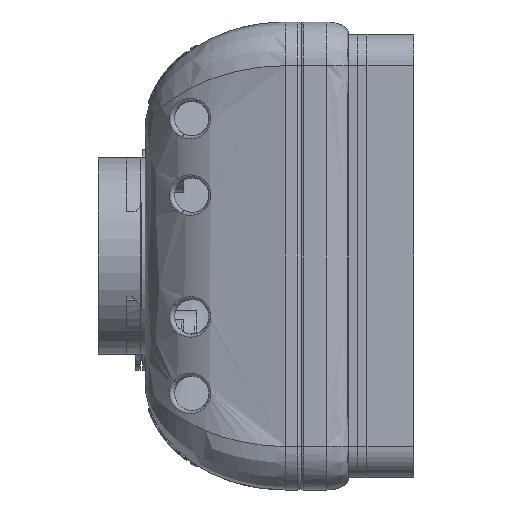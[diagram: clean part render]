
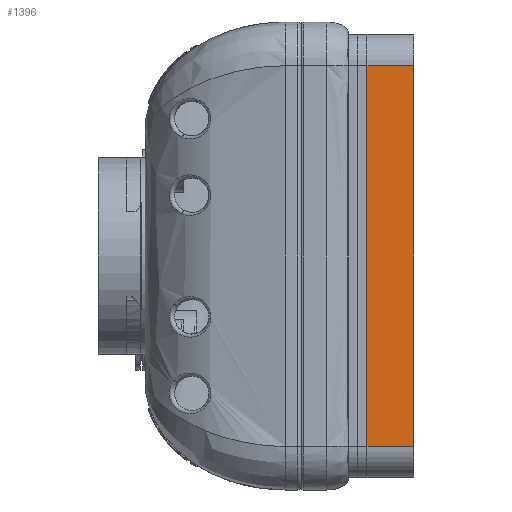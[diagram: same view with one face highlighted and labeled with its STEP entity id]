
A CAD part, left-side view. The second image highlights one B-rep face of the part: STEP entity #1396.
In plain terms, the highlighted planar face has unit normal (-1, 0, 0).
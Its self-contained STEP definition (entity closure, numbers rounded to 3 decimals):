
#1181 = VERTEX_POINT ( 'NONE', #20767 ) ;
#1396 = ADVANCED_FACE ( 'NONE', ( #39639 ), #25985, .F. ) ;
#2404 = CARTESIAN_POINT ( 'NONE',  ( -128.5, -21., -61. ) ) ;
#3754 = EDGE_CURVE ( 'NONE', #1181, #45053, #54998, .T. ) ;
#4800 = LINE ( 'NONE', #47561, #24805 ) ;
#6113 = DIRECTION ( 'NONE',  ( 0., 0., -1. ) ) ;
#6748 = DIRECTION ( 'NONE',  ( 0., 0., 1. ) ) ;
#7542 = CARTESIAN_POINT ( 'NONE',  ( -128.5, -21., -61. ) ) ;
#8100 = EDGE_CURVE ( 'NONE', #1181, #23392, #60673, .T. ) ;
#9565 = ORIENTED_EDGE ( 'NONE', *, *, #3754, .F. ) ;
#9627 = ORIENTED_EDGE ( 'NONE', *, *, #8100, .T. ) ;
#16637 = VECTOR ( 'NONE', #42070, 1000. ) ;
#20767 = CARTESIAN_POINT ( 'NONE',  ( -128.5, -21., 61. ) ) ;
#23214 = ORIENTED_EDGE ( 'NONE', *, *, #30916, .F. ) ;
#23392 = VERTEX_POINT ( 'NONE', #25819 ) ;
#24805 = VECTOR ( 'NONE', #43229, 1000. ) ;
#25819 = CARTESIAN_POINT ( 'NONE',  ( -128.5, -6., 61. ) ) ;
#25985 = PLANE ( 'NONE',  #42017 ) ;
#25990 = CARTESIAN_POINT ( 'NONE',  ( -128.5, -6., -61. ) ) ;
#30916 = EDGE_CURVE ( 'NONE', #45053, #57422, #4800, .T. ) ;
#32994 = DIRECTION ( 'NONE',  ( 0., 1., 0. ) ) ;
#35732 = EDGE_CURVE ( 'NONE', #23392, #57422, #41745, .T. ) ;
#39639 = FACE_OUTER_BOUND ( 'NONE', #60932, .T. ) ;
#41745 = LINE ( 'NONE', #55508, #16637 ) ;
#42017 = AXIS2_PLACEMENT_3D ( 'NONE', #2404, #54441, #6748 ) ;
#42070 = DIRECTION ( 'NONE',  ( 0., 0., -1. ) ) ;
#42445 = VECTOR ( 'NONE', #6113, 1000. ) ;
#43229 = DIRECTION ( 'NONE',  ( 0., 1., 0. ) ) ;
#45053 = VERTEX_POINT ( 'NONE', #57763 ) ;
#47561 = CARTESIAN_POINT ( 'NONE',  ( -128.5, -21., -61. ) ) ;
#49849 = ORIENTED_EDGE ( 'NONE', *, *, #35732, .T. ) ;
#54441 = DIRECTION ( 'NONE',  ( 1., 0., 0. ) ) ;
#54998 = LINE ( 'NONE', #7542, #42445 ) ;
#55508 = CARTESIAN_POINT ( 'NONE',  ( -128.5, -6., -61. ) ) ;
#56313 = CARTESIAN_POINT ( 'NONE',  ( -128.5, -21., 61. ) ) ;
#57422 = VERTEX_POINT ( 'NONE', #25990 ) ;
#57763 = CARTESIAN_POINT ( 'NONE',  ( -128.5, -21., -61. ) ) ;
#59192 = VECTOR ( 'NONE', #32994, 1000. ) ;
#60673 = LINE ( 'NONE', #56313, #59192 ) ;
#60932 = EDGE_LOOP ( 'NONE', ( #49849, #23214, #9565, #9627 ) ) ;
